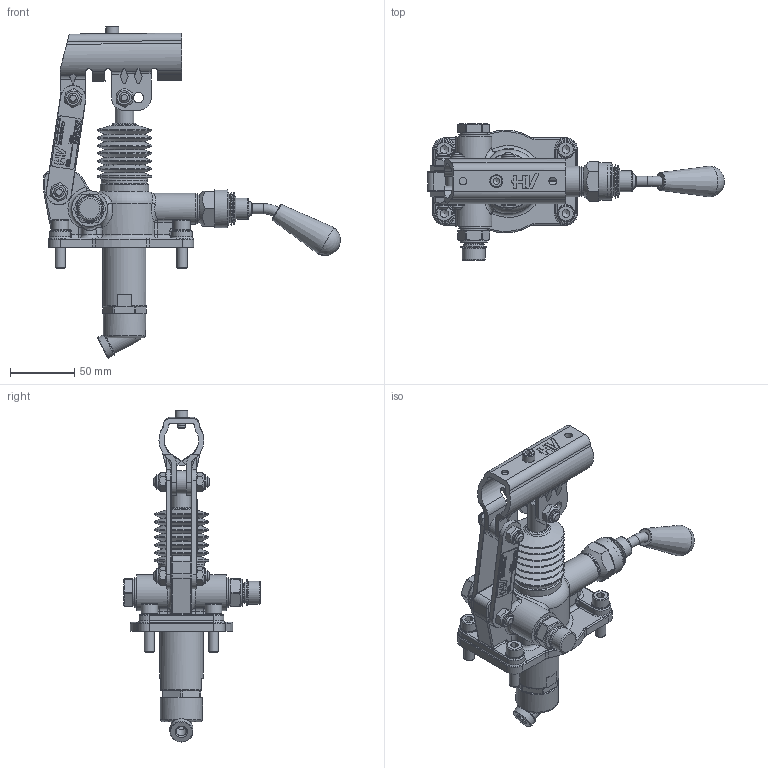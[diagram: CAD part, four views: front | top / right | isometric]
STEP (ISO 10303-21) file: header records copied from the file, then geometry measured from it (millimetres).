
FILE_DESCRIPTION((''),'2;1');
FILE_NAME('G:\HV_HYDRAULIC\AZIENDA_HV_HYDRAULIC\ARCHIVIO_DISEGNI\5_PRODOTTI_FINITI\1_POMPE_MANUALI\6050_PM_12\6050.0120_PM_12_m-s_(HV)\6050.0120.stp','2024-02-28T07:41:39',('christian.scardovi'),(''),'Autodesk Inventor 2013','Autodesk Inventor 2013','');
FILE_SCHEMA(('AUTOMOTIVE_DESIGN { 1 0 10303 214 1 1 1 1 }'));
Length unit declared in the file: millimetre
Products named in the file (1): 6050.0120
Bounding box: 231.43 x 106.5 x 258.81 mm (x, y, z)
Volume: 414929.6 mm3; surface area: 124477.9 mm2
Topology: 3 solids, 3 shells, 1481 faces, 3696 edges, 2325 vertices
Faces by surface type: plane 717, cylinder 305, bspline 191, cone 145, torus 107, sphere 16
Full cylindrical faces by diameter (mm): 3 x2, 4 x1, 5 x4, 5.5 x1, 6 x4, 6.5 x2, 8 x16, 9 x3, 9.2 x1, 10 x6, 10.376 x1, 11.05 x6, 12 x5, 13 x4, 13.2 x1, 13.468 x1, 14 x4, 14.5 x1, 14.6 x1, 14.95 x2, 15 x4, 15.5 x1, 16 x3, 16.468 x1, 16.6 x1, 18 x5, 19.7 x1, 20 x4, 21 x3, 22 x2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
Entity records: 46078 total; most frequent: CARTESIAN_POINT 12000, ORIENTED_EDGE 6682, DIRECTION 6245, EDGE_CURVE 3341, VERTEX_POINT 2248, AXIS2_PLACEMENT_3D 2218, EDGE_LOOP 1886, VECTOR 1809
